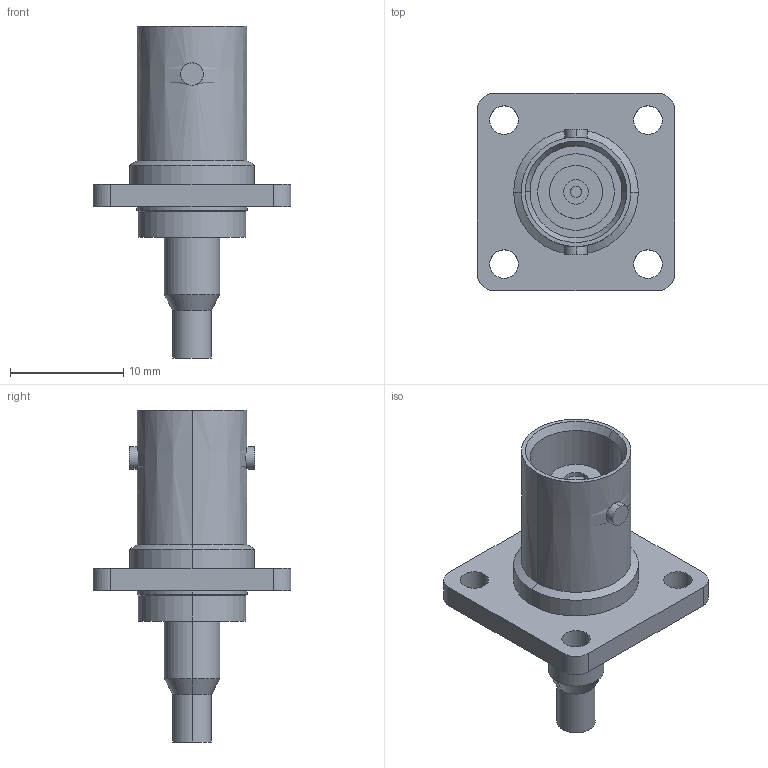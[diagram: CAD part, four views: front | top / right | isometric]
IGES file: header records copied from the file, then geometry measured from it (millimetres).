
Start section:  PTC IGES file: c-5225397-07-o-3d.igs
Global section: file name: c-5225397-07-o-3d.igs; native system: Pro/ENGINEER by Parametric Technology Corporation; preprocessor: 2005450; author: workeradm; organization: Unknown; date: 070901.145043; units: millimetre
Bounding box: 17.45 x 17.45 x 29.29 mm (x, y, z)
Surface area: 1909.9 mm2 (no closed solid volume)
Topology: 0 solids, 0 shells, 77 faces, 332 edges, 332 vertices
Faces by surface type: revolution 58, bspline 19
